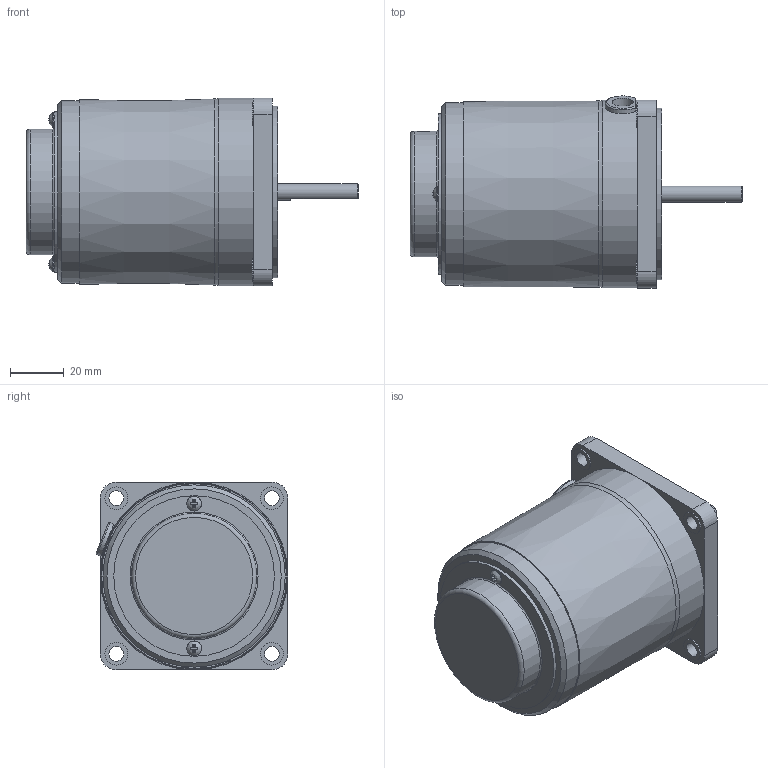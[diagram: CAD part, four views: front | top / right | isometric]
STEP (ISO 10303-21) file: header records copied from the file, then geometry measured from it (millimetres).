
FILE_DESCRIPTION((''),'2;1');
FILE_NAME('D:\김성묵\업무폴더\개발 파일\프로젝트 개발 AB등급\AC표준형 개발자료\90각 이하 표준형 개발\도면작성 자료\3D 도면\홈페이지용 3D 파일\15W MOTOR\SPEED CONTROL\S7I(R)15D-V(S).stp','2015-03-30T16:59:08',('smkim'),(''),'Autodesk Inventor 2012','Autodesk Inventor 2012','');
FILE_SCHEMA(('AUTOMOTIVE_DESIGN { 1 0 10303 214 1 1 1 1 }'));
Length unit declared in the file: millimetre
Products named in the file (1): 부품38
Bounding box: 123.8 x 71.56 x 70 mm (x, y, z)
Volume: 327108.4 mm3; surface area: 33272.3 mm2
Topology: 1 solids, 6 shells, 144 faces, 334 edges, 217 vertices
Faces by surface type: plane 87, cylinder 43, torus 9, cone 3, bspline 2
Full cylindrical faces by diameter (mm): 3 x2, 3.5 x2, 5 x1, 5.5 x4, 5.6 x2, 6 x1, 8 x1, 8.5 x4, 10 x1, 28 x1, 44.7 x1, 46.7 x1, 47.7 x1, 59.9 x1, 64 x1, 68 x1, 70 x1
Entity records: 4187 total; most frequent: CARTESIAN_POINT 984, DIRECTION 640, ORIENTED_EDGE 576, EDGE_CURVE 288, AXIS2_PLACEMENT_3D 243, EDGE_LOOP 214, VERTEX_POINT 210, VECTOR 154
